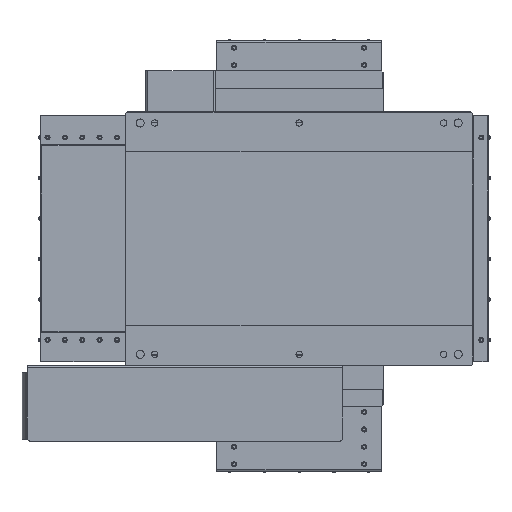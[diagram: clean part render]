
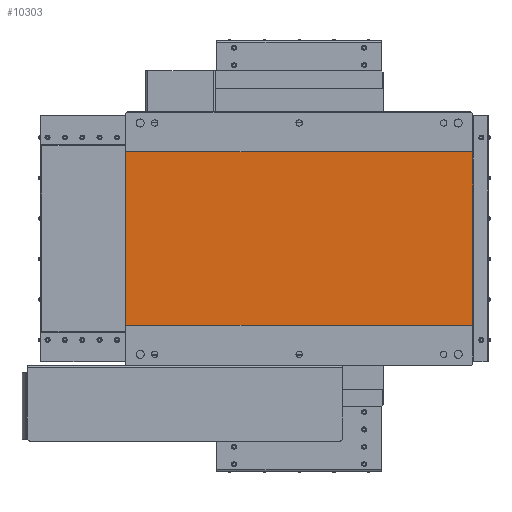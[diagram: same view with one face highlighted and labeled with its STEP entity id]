
A CAD part, front view. The second image highlights one B-rep face of the part: STEP entity #10303.
In plain terms, the highlighted planar face has unit normal (0, -1, 0).
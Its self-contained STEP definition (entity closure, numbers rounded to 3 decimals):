
#400 = VERTEX_POINT ( 'NONE', #99251 ) ;
#9504 = DIRECTION ( 'NONE',  ( 0., 0., 1. ) ) ;
#10303 = ADVANCED_FACE ( 'NONE', ( #70076 ), #117988, .F. ) ;
#16791 = LINE ( 'NONE', #65583, #103090 ) ;
#18564 = CARTESIAN_POINT ( 'NONE',  ( -300., 1., 150. ) ) ;
#20294 = CARTESIAN_POINT ( 'NONE',  ( -300., 1., -150. ) ) ;
#28434 = DIRECTION ( 'NONE',  ( 0., 0., 1. ) ) ;
#29313 = DIRECTION ( 'NONE',  ( 0., 1., 0. ) ) ;
#30098 = VECTOR ( 'NONE', #54135, 1000. ) ;
#34839 = LINE ( 'NONE', #79798, #110326 ) ;
#52866 = CARTESIAN_POINT ( 'NONE',  ( -300., 1., -150. ) ) ;
#54135 = DIRECTION ( 'NONE',  ( 1., 0., 0. ) ) ;
#54788 = EDGE_CURVE ( 'NONE', #68066, #100557, #34839, .T. ) ;
#59449 = LINE ( 'NONE', #52866, #30098 ) ;
#65583 = CARTESIAN_POINT ( 'NONE',  ( 300., 1., -150. ) ) ;
#68066 = VERTEX_POINT ( 'NONE', #18564 ) ;
#69266 = ORIENTED_EDGE ( 'NONE', *, *, #100366, .T. ) ;
#70076 = FACE_OUTER_BOUND ( 'NONE', #84499, .T. ) ;
#73739 = CARTESIAN_POINT ( 'NONE',  ( 300., 1., -150. ) ) ;
#78918 = DIRECTION ( 'NONE',  ( 0., 0., 1. ) ) ;
#79330 = CARTESIAN_POINT ( 'NONE',  ( -300., 1., -150. ) ) ;
#79798 = CARTESIAN_POINT ( 'NONE',  ( -300., 1., 150. ) ) ;
#80679 = VECTOR ( 'NONE', #9504, 1000. ) ;
#84499 = EDGE_LOOP ( 'NONE', ( #69266, #98250, #109742, #126006 ) ) ;
#86525 = EDGE_CURVE ( 'NONE', #400, #94179, #59449, .T. ) ;
#91711 = AXIS2_PLACEMENT_3D ( 'NONE', #79330, #29313, #28434 ) ;
#94179 = VERTEX_POINT ( 'NONE', #73739 ) ;
#96018 = LINE ( 'NONE', #20294, #80679 ) ;
#98250 = ORIENTED_EDGE ( 'NONE', *, *, #54788, .F. ) ;
#99251 = CARTESIAN_POINT ( 'NONE',  ( -300., 1., -150. ) ) ;
#99889 = CARTESIAN_POINT ( 'NONE',  ( 300., 1., 150. ) ) ;
#100366 = EDGE_CURVE ( 'NONE', #94179, #100557, #16791, .T. ) ;
#100557 = VERTEX_POINT ( 'NONE', #99889 ) ;
#103090 = VECTOR ( 'NONE', #78918, 1000. ) ;
#109742 = ORIENTED_EDGE ( 'NONE', *, *, #110149, .F. ) ;
#110149 = EDGE_CURVE ( 'NONE', #400, #68066, #96018, .T. ) ;
#110326 = VECTOR ( 'NONE', #117608, 1000. ) ;
#117608 = DIRECTION ( 'NONE',  ( 1., 0., 0. ) ) ;
#117988 = PLANE ( 'NONE',  #91711 ) ;
#126006 = ORIENTED_EDGE ( 'NONE', *, *, #86525, .T. ) ;
